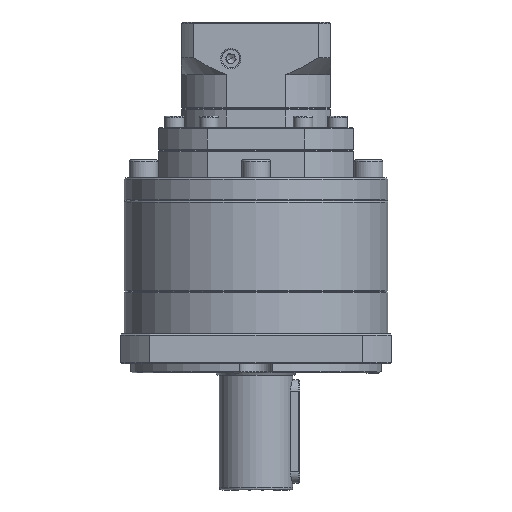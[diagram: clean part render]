
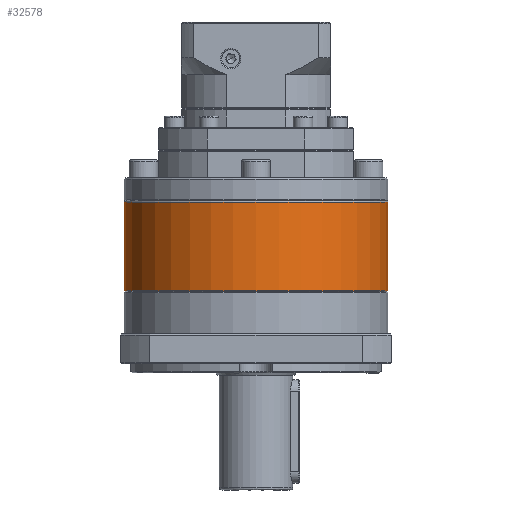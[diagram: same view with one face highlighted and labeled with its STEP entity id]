
A CAD part, front view. The second image highlights one B-rep face of the part: STEP entity #32578.
In plain terms, the highlighted cylindrical face has radius 57.5 mm (diameter 115 mm), a partial arc.
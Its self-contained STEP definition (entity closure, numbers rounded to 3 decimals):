
#1665 = VERTEX_POINT ( 'NONE', #24010 ) ;
#9052 = EDGE_CURVE ( 'NONE', #1665, #134537, #60487, .T. ) ;
#10955 = LINE ( 'NONE', #63824, #29020 ) ;
#11513 = DIRECTION ( 'NONE',  ( 0., 0., -1. ) ) ;
#18010 = CARTESIAN_POINT ( 'NONE',  ( 24.129, 125.006, -69.306 ) ) ;
#24010 = CARTESIAN_POINT ( 'NONE',  ( 24.129, 125.006, -108.018 ) ) ;
#25157 = CARTESIAN_POINT ( 'NONE',  ( 24.129, 125.006, -68.806 ) ) ;
#27086 = DIRECTION ( 'NONE',  ( -1., 0., 0. ) ) ;
#27726 = ORIENTED_EDGE ( 'NONE', *, *, #72575, .F. ) ;
#28602 = AXIS2_PLACEMENT_3D ( 'NONE', #121212, #110627, #27086 ) ;
#29020 = VECTOR ( 'NONE', #11513, 1000. ) ;
#32578 = ADVANCED_FACE ( 'NONE', ( #133149 ), #45808, .T. ) ;
#35654 = CARTESIAN_POINT ( 'NONE',  ( 81.629, 125.006, -108.018 ) ) ;
#36315 = VERTEX_POINT ( 'NONE', #18010 ) ;
#45808 = CYLINDRICAL_SURFACE ( 'NONE', #106951, 57.5 ) ;
#46283 = DIRECTION ( 'NONE',  ( -1., 0., 0. ) ) ;
#60487 = CIRCLE ( 'NONE', #69363, 57.5 ) ;
#60841 = CIRCLE ( 'NONE', #28602, 57.5 ) ;
#63824 = CARTESIAN_POINT ( 'NONE',  ( 139.129, 125.006, -68.806 ) ) ;
#66017 = ORIENTED_EDGE ( 'NONE', *, *, #79929, .T. ) ;
#66393 = DIRECTION ( 'NONE',  ( -1., 0., 0. ) ) ;
#66841 = DIRECTION ( 'NONE',  ( 0., 0., 1. ) ) ;
#67180 = CARTESIAN_POINT ( 'NONE',  ( 139.129, 125.006, -69.306 ) ) ;
#69363 = AXIS2_PLACEMENT_3D ( 'NONE', #35654, #66841, #66393 ) ;
#72575 = EDGE_CURVE ( 'NONE', #132926, #134537, #10955, .T. ) ;
#79929 = EDGE_CURVE ( 'NONE', #132926, #36315, #60841, .T. ) ;
#84598 = EDGE_LOOP ( 'NONE', ( #27726, #66017, #97657, #105975 ) ) ;
#89766 = DIRECTION ( 'NONE',  ( 0., 0., -1. ) ) ;
#97657 = ORIENTED_EDGE ( 'NONE', *, *, #100091, .T. ) ;
#100091 = EDGE_CURVE ( 'NONE', #36315, #1665, #102261, .T. ) ;
#102261 = LINE ( 'NONE', #25157, #118741 ) ;
#102983 = CARTESIAN_POINT ( 'NONE',  ( 139.129, 125.006, -108.018 ) ) ;
#105975 = ORIENTED_EDGE ( 'NONE', *, *, #9052, .T. ) ;
#106951 = AXIS2_PLACEMENT_3D ( 'NONE', #130422, #129968, #46283 ) ;
#110627 = DIRECTION ( 'NONE',  ( 0., 0., -1. ) ) ;
#118741 = VECTOR ( 'NONE', #89766, 1000. ) ;
#121212 = CARTESIAN_POINT ( 'NONE',  ( 81.629, 125.006, -69.306 ) ) ;
#129968 = DIRECTION ( 'NONE',  ( 0., 0., -1. ) ) ;
#130422 = CARTESIAN_POINT ( 'NONE',  ( 81.629, 125.006, -68.806 ) ) ;
#132926 = VERTEX_POINT ( 'NONE', #67180 ) ;
#133149 = FACE_OUTER_BOUND ( 'NONE', #84598, .T. ) ;
#134537 = VERTEX_POINT ( 'NONE', #102983 ) ;
